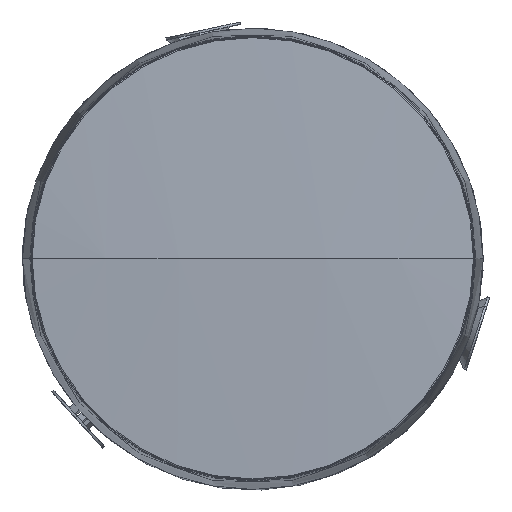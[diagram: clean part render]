
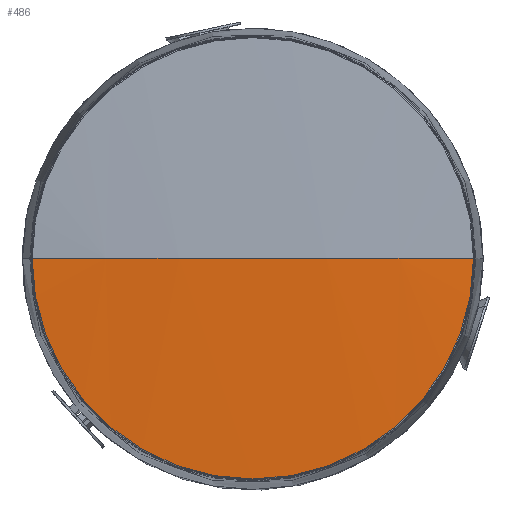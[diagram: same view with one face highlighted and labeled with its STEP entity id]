
A CAD part, top view. The second image highlights one B-rep face of the part: STEP entity #486.
In plain terms, the highlighted spherical face has radius 425.223 mm.
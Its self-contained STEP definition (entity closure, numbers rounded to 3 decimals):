
#141=CARTESIAN_POINT('',(0.,0.,-418.223));
#142=DIRECTION('',(0.,-1.,0.));
#143=DIRECTION('',(0.,0.,1.));
#144=AXIS2_PLACEMENT_3D('',#141,#142,#143);
#146=CARTESIAN_POINT('',(0.,0.,-418.223));
#147=DIRECTION('',(0.,1.,0.));
#148=DIRECTION('',(0.,0.,1.));
#149=AXIS2_PLACEMENT_3D('',#146,#147,#148);
#184=CARTESIAN_POINT('',(0.,0.,6.013));
#185=DIRECTION('',(0.,0.,-1.));
#186=DIRECTION('',(1.,0.,0.));
#187=AXIS2_PLACEMENT_3D('',#184,#185,#186);
#331=CARTESIAN_POINT('',(0.,0.,7.));
#332=CARTESIAN_POINT('',(28.962,0.,6.013));
#333=VERTEX_POINT('',#331);
#334=VERTEX_POINT('',#332);
#335=CARTESIAN_POINT('',(-28.962,0.,6.013));
#336=VERTEX_POINT('',#335);
#475=CARTESIAN_POINT('',(0.,0.,-418.223));
#476=DIRECTION('',(0.,0.,-1.));
#477=DIRECTION('',(-1.,0.,0.));
#478=AXIS2_PLACEMENT_3D('',#475,#476,#477);
#479=SPHERICAL_SURFACE('',#478,425.223);
#481=ORIENTED_EDGE('',*,*,#480,.T.);
#482=ORIENTED_EDGE('',*,*,#470,.F.);
#483=ORIENTED_EDGE('',*,*,#468,.T.);
#484=EDGE_LOOP('',(#481,#482,#483));
#485=FACE_OUTER_BOUND('',#484,.F.);
#486=ADVANCED_FACE('',(#485),#479,.T.);
#145=CIRCLE('',#144,425.223);
#150=CIRCLE('',#149,425.223);
#188=CIRCLE('',#187,28.962);
#468=EDGE_CURVE('',#333,#334,#150,.T.);
#470=EDGE_CURVE('',#333,#336,#145,.T.);
#480=EDGE_CURVE('',#334,#336,#188,.T.);
